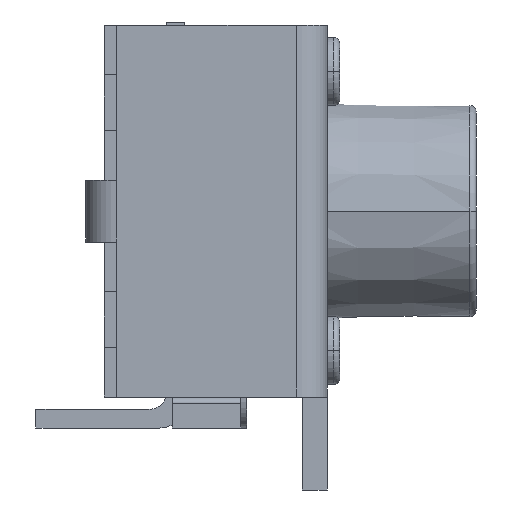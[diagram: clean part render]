
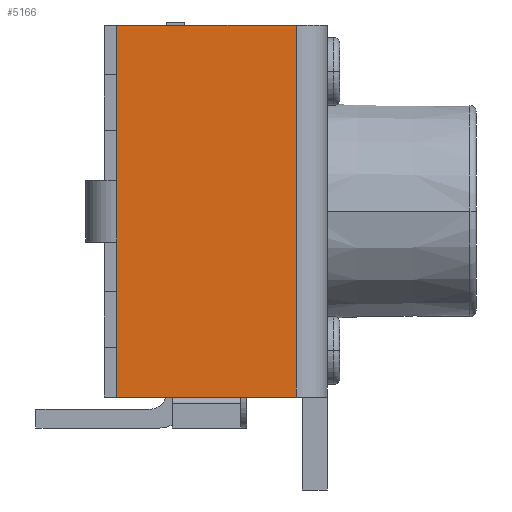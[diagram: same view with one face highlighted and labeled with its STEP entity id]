
A CAD part, left-side view. The second image highlights one B-rep face of the part: STEP entity #5166.
In plain terms, the highlighted planar face has unit normal (-1, 0, 0).
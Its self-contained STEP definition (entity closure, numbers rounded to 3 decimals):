
#4109=DIRECTION('',(0.,0.,1.));
#4110=VECTOR('',#4109,6.);
#4111=CARTESIAN_POINT('',(-3.75,0.1,-3.));
#4112=LINE('',#4111,#4110);
#4127=DIRECTION('',(0.,0.,-1.));
#4128=VECTOR('',#4127,2.5);
#4129=CARTESIAN_POINT('',(-3.75,3.,3.));
#4130=LINE('',#4129,#4128);
#4131=DIRECTION('',(0.,1.,0.));
#4132=VECTOR('',#4131,2.9);
#4133=CARTESIAN_POINT('',(-3.75,0.1,3.));
#4134=LINE('',#4133,#4132);
#4135=DIRECTION('',(0.,-1.,0.));
#4136=VECTOR('',#4135,0.9);
#4137=CARTESIAN_POINT('',(-3.75,1.,-3.));
#4138=LINE('',#4137,#4136);
#4139=DIRECTION('',(0.,-1.,0.));
#4140=VECTOR('',#4139,0.9);
#4141=CARTESIAN_POINT('',(-3.75,3.,-3.));
#4142=LINE('',#4141,#4140);
#4143=DIRECTION('',(0.,0.,-1.));
#4144=VECTOR('',#4143,2.5);
#4145=CARTESIAN_POINT('',(-3.75,3.,-0.5));
#4146=LINE('',#4145,#4144);
#4168=DIRECTION('',(0.,0.,1.));
#4169=VECTOR('',#4168,1.);
#4170=CARTESIAN_POINT('',(-3.75,3.,-0.5));
#4171=LINE('',#4170,#4169);
#4326=DIRECTION('',(0.,-1.,0.));
#4327=VECTOR('',#4326,1.1);
#4328=CARTESIAN_POINT('',(-3.75,2.1,-3.));
#4329=LINE('',#4328,#4327);
#4705=CARTESIAN_POINT('',(-3.75,0.1,3.));
#4706=CARTESIAN_POINT('',(-3.75,3.,3.));
#4707=VERTEX_POINT('',#4705);
#4708=VERTEX_POINT('',#4706);
#4713=CARTESIAN_POINT('',(-3.75,3.,-3.));
#4715=VERTEX_POINT('',#4713);
#4717=CARTESIAN_POINT('',(-3.75,0.1,-3.));
#4719=VERTEX_POINT('',#4717);
#4761=CARTESIAN_POINT('',(-3.75,1.,-3.));
#4762=VERTEX_POINT('',#4761);
#4763=CARTESIAN_POINT('',(-3.75,2.1,-3.));
#4764=VERTEX_POINT('',#4763);
#4809=CARTESIAN_POINT('',(-3.75,3.,-0.5));
#4810=VERTEX_POINT('',#4809);
#4839=CARTESIAN_POINT('',(-3.75,3.,0.5));
#4840=VERTEX_POINT('',#4839);
#5144=CARTESIAN_POINT('',(-3.75,-0.4,3.));
#5145=DIRECTION('',(-1.,0.,0.));
#5146=DIRECTION('',(0.,0.,1.));
#5147=AXIS2_PLACEMENT_3D('',#5144,#5145,#5146);
#5148=PLANE('',#5147);
#5150=ORIENTED_EDGE('',*,*,#5149,.F.);
#5152=ORIENTED_EDGE('',*,*,#5151,.F.);
#5153=ORIENTED_EDGE('',*,*,#5135,.F.);
#5155=ORIENTED_EDGE('',*,*,#5154,.F.);
#5157=ORIENTED_EDGE('',*,*,#5156,.F.);
#5159=ORIENTED_EDGE('',*,*,#5158,.F.);
#5161=ORIENTED_EDGE('',*,*,#5160,.F.);
#5163=ORIENTED_EDGE('',*,*,#5162,.T.);
#5164=EDGE_LOOP('',(#5150,#5152,#5153,#5155,#5157,#5159,#5161,#5163));
#5165=FACE_OUTER_BOUND('',#5164,.F.);
#5135=EDGE_CURVE('',#4719,#4707,#4112,.T.);
#5149=EDGE_CURVE('',#4708,#4840,#4130,.T.);
#5151=EDGE_CURVE('',#4707,#4708,#4134,.T.);
#5154=EDGE_CURVE('',#4762,#4719,#4138,.T.);
#5156=EDGE_CURVE('',#4764,#4762,#4329,.T.);
#5158=EDGE_CURVE('',#4715,#4764,#4142,.T.);
#5160=EDGE_CURVE('',#4810,#4715,#4146,.T.);
#5162=EDGE_CURVE('',#4810,#4840,#4171,.T.);
#5166=ADVANCED_FACE('',(#5165),#5148,.T.);
